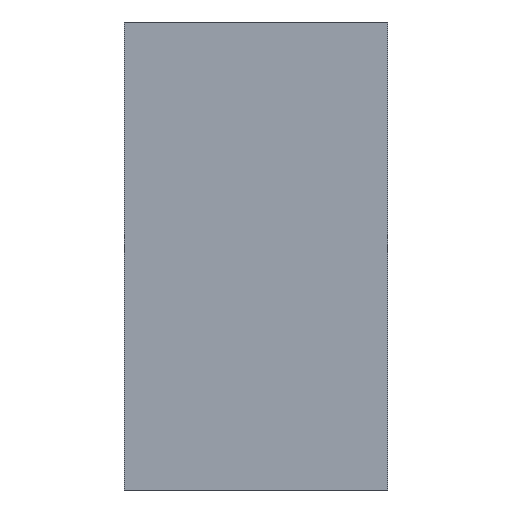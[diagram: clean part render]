
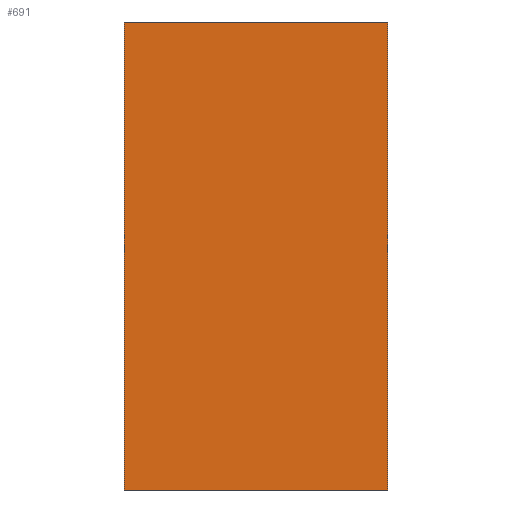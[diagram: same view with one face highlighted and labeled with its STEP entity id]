
A CAD part, left-side view. The second image highlights one B-rep face of the part: STEP entity #691.
In plain terms, the highlighted planar face has unit normal (-1, 0, 0).
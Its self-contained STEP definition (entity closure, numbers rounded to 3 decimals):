
#44 = PLANE('',#45);
#45 = AXIS2_PLACEMENT_3D('',#46,#47,#48);
#46 = CARTESIAN_POINT('',(-0.694,0.225,-0.4));
#47 = DIRECTION('',(0.,0.,1.));
#48 = DIRECTION('',(0.,-1.,0.));
#236 = VERTEX_POINT('',#237);
#237 = CARTESIAN_POINT('',(-0.8,0.45,-0.4));
#251 = PLANE('',#252);
#252 = AXIS2_PLACEMENT_3D('',#253,#254,#255);
#253 = CARTESIAN_POINT('',(-0.55,0.45,-0.4));
#254 = DIRECTION('',(0.,-1.,0.));
#255 = DIRECTION('',(-1.,0.,0.));
#263 = EDGE_CURVE('',#236,#264,#266,.T.);
#264 = VERTEX_POINT('',#265);
#265 = CARTESIAN_POINT('',(-0.8,0.,-0.4));
#266 = SURFACE_CURVE('',#267,(#271,#278),.PCURVE_S1.);
#267 = LINE('',#268,#269);
#268 = CARTESIAN_POINT('',(-0.8,0.45,-0.4));
#269 = VECTOR('',#270,1.);
#270 = DIRECTION('',(0.,-1.,0.));
#271 = PCURVE('',#44,#272);
#272 = DEFINITIONAL_REPRESENTATION('',(#273),#277);
#273 = LINE('',#274,#275);
#274 = CARTESIAN_POINT('',(-0.225,-0.106));
#275 = VECTOR('',#276,1.);
#276 = DIRECTION('',(1.,0.));
#277 = ( GEOMETRIC_REPRESENTATION_CONTEXT(2) 
PARAMETRIC_REPRESENTATION_CONTEXT() REPRESENTATION_CONTEXT('2D SPACE',''
  ) );
#278 = PCURVE('',#279,#284);
#279 = PLANE('',#280);
#280 = AXIS2_PLACEMENT_3D('',#281,#282,#283);
#281 = CARTESIAN_POINT('',(-0.8,0.45,-0.4));
#282 = DIRECTION('',(1.,0.,-0.));
#283 = DIRECTION('',(0.,-1.,0.));
#284 = DEFINITIONAL_REPRESENTATION('',(#285),#289);
#285 = LINE('',#286,#287);
#286 = CARTESIAN_POINT('',(0.,0.));
#287 = VECTOR('',#288,1.);
#288 = DIRECTION('',(1.,0.));
#289 = ( GEOMETRIC_REPRESENTATION_CONTEXT(2) 
PARAMETRIC_REPRESENTATION_CONTEXT() REPRESENTATION_CONTEXT('2D SPACE',''
  ) );
#307 = PLANE('',#308);
#308 = AXIS2_PLACEMENT_3D('',#309,#310,#311);
#309 = CARTESIAN_POINT('',(-0.8,0.,-0.4));
#310 = DIRECTION('',(0.,1.,0.));
#311 = DIRECTION('',(1.,0.,0.));
#643 = VERTEX_POINT('',#644);
#644 = CARTESIAN_POINT('',(-0.8,0.45,0.4));
#658 = PLANE('',#659);
#659 = AXIS2_PLACEMENT_3D('',#660,#661,#662);
#660 = CARTESIAN_POINT('',(-0.694,0.225,0.4));
#661 = DIRECTION('',(0.,0.,1.));
#662 = DIRECTION('',(0.,-1.,0.));
#670 = EDGE_CURVE('',#236,#643,#671,.T.);
#671 = SURFACE_CURVE('',#672,(#676,#683),.PCURVE_S1.);
#672 = LINE('',#673,#674);
#673 = CARTESIAN_POINT('',(-0.8,0.45,-0.4));
#674 = VECTOR('',#675,1.);
#675 = DIRECTION('',(0.,0.,1.));
#676 = PCURVE('',#251,#677);
#677 = DEFINITIONAL_REPRESENTATION('',(#678),#682);
#678 = LINE('',#679,#680);
#679 = CARTESIAN_POINT('',(0.25,0.));
#680 = VECTOR('',#681,1.);
#681 = DIRECTION('',(0.,-1.));
#682 = ( GEOMETRIC_REPRESENTATION_CONTEXT(2) 
PARAMETRIC_REPRESENTATION_CONTEXT() REPRESENTATION_CONTEXT('2D SPACE',''
  ) );
#683 = PCURVE('',#279,#684);
#684 = DEFINITIONAL_REPRESENTATION('',(#685),#689);
#685 = LINE('',#686,#687);
#686 = CARTESIAN_POINT('',(0.,0.));
#687 = VECTOR('',#688,1.);
#688 = DIRECTION('',(0.,-1.));
#689 = ( GEOMETRIC_REPRESENTATION_CONTEXT(2) 
PARAMETRIC_REPRESENTATION_CONTEXT() REPRESENTATION_CONTEXT('2D SPACE',''
  ) );
#691 = ADVANCED_FACE('',(#692),#279,.F.);
#692 = FACE_BOUND('',#693,.F.);
#693 = EDGE_LOOP('',(#694,#695,#718,#739));
#694 = ORIENTED_EDGE('',*,*,#670,.T.);
#695 = ORIENTED_EDGE('',*,*,#696,.T.);
#696 = EDGE_CURVE('',#643,#697,#699,.T.);
#697 = VERTEX_POINT('',#698);
#698 = CARTESIAN_POINT('',(-0.8,0.,0.4));
#699 = SURFACE_CURVE('',#700,(#704,#711),.PCURVE_S1.);
#700 = LINE('',#701,#702);
#701 = CARTESIAN_POINT('',(-0.8,0.45,0.4));
#702 = VECTOR('',#703,1.);
#703 = DIRECTION('',(0.,-1.,0.));
#704 = PCURVE('',#279,#705);
#705 = DEFINITIONAL_REPRESENTATION('',(#706),#710);
#706 = LINE('',#707,#708);
#707 = CARTESIAN_POINT('',(0.,-0.8));
#708 = VECTOR('',#709,1.);
#709 = DIRECTION('',(1.,0.));
#710 = ( GEOMETRIC_REPRESENTATION_CONTEXT(2) 
PARAMETRIC_REPRESENTATION_CONTEXT() REPRESENTATION_CONTEXT('2D SPACE',''
  ) );
#711 = PCURVE('',#658,#712);
#712 = DEFINITIONAL_REPRESENTATION('',(#713),#717);
#713 = LINE('',#714,#715);
#714 = CARTESIAN_POINT('',(-0.225,-0.106));
#715 = VECTOR('',#716,1.);
#716 = DIRECTION('',(1.,0.));
#717 = ( GEOMETRIC_REPRESENTATION_CONTEXT(2) 
PARAMETRIC_REPRESENTATION_CONTEXT() REPRESENTATION_CONTEXT('2D SPACE',''
  ) );
#718 = ORIENTED_EDGE('',*,*,#719,.F.);
#719 = EDGE_CURVE('',#264,#697,#720,.T.);
#720 = SURFACE_CURVE('',#721,(#725,#732),.PCURVE_S1.);
#721 = LINE('',#722,#723);
#722 = CARTESIAN_POINT('',(-0.8,0.,-0.4));
#723 = VECTOR('',#724,1.);
#724 = DIRECTION('',(0.,0.,1.));
#725 = PCURVE('',#279,#726);
#726 = DEFINITIONAL_REPRESENTATION('',(#727),#731);
#727 = LINE('',#728,#729);
#728 = CARTESIAN_POINT('',(0.45,0.));
#729 = VECTOR('',#730,1.);
#730 = DIRECTION('',(0.,-1.));
#731 = ( GEOMETRIC_REPRESENTATION_CONTEXT(2) 
PARAMETRIC_REPRESENTATION_CONTEXT() REPRESENTATION_CONTEXT('2D SPACE',''
  ) );
#732 = PCURVE('',#307,#733);
#733 = DEFINITIONAL_REPRESENTATION('',(#734),#738);
#734 = LINE('',#735,#736);
#735 = CARTESIAN_POINT('',(0.,0.));
#736 = VECTOR('',#737,1.);
#737 = DIRECTION('',(0.,-1.));
#738 = ( GEOMETRIC_REPRESENTATION_CONTEXT(2) 
PARAMETRIC_REPRESENTATION_CONTEXT() REPRESENTATION_CONTEXT('2D SPACE',''
  ) );
#739 = ORIENTED_EDGE('',*,*,#263,.F.);
